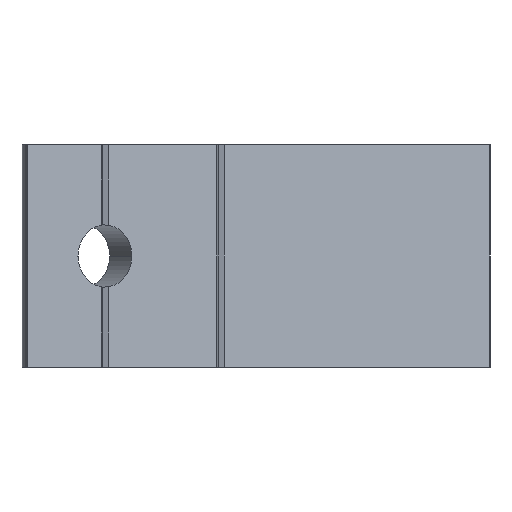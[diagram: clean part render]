
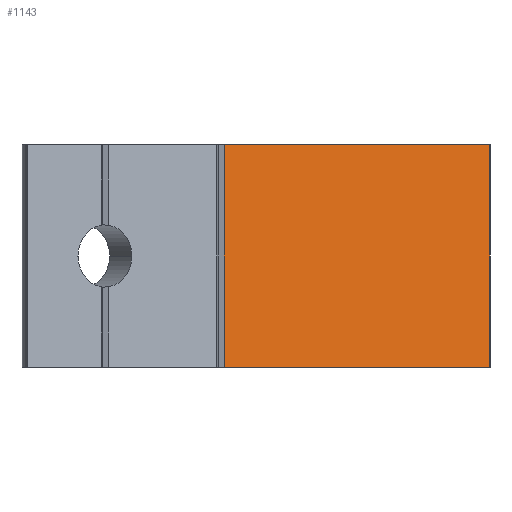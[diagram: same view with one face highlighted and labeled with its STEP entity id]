
A CAD part, left-side view. The second image highlights one B-rep face of the part: STEP entity #1143.
In plain terms, the highlighted planar face has unit normal (-0.866, -0.5, 0).
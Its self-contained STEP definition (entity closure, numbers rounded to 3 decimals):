
#13 = LINE ( 'NONE', #335, #698 ) ;
#129 = LINE ( 'NONE', #1243, #1178 ) ;
#134 = CARTESIAN_POINT ( 'NONE',  ( -17.25, 29.878, 12.5 ) ) ;
#139 = DIRECTION ( 'NONE',  ( 0., 0., -1. ) ) ;
#142 = DIRECTION ( 'NONE',  ( 0.5, -0.866, 0. ) ) ;
#163 = EDGE_CURVE ( 'NONE', #908, #1021, #913, .T. ) ;
#211 = CARTESIAN_POINT ( 'NONE',  ( -17.25, 29.878, -12.5 ) ) ;
#218 = DIRECTION ( 'NONE',  ( 0.866, 0.5, 0. ) ) ;
#263 = VERTEX_POINT ( 'NONE', #134 ) ;
#281 = CARTESIAN_POINT ( 'NONE',  ( -30., 51.962, -12.5 ) ) ;
#321 = EDGE_LOOP ( 'NONE', ( #1472, #1173, #1211, #1369 ) ) ;
#331 = VECTOR ( 'NONE', #139, 1000. ) ;
#335 = CARTESIAN_POINT ( 'NONE',  ( -17.25, 29.878, -13.603 ) ) ;
#435 = CARTESIAN_POINT ( 'NONE',  ( -30., 51.962, 12.5 ) ) ;
#474 = CARTESIAN_POINT ( 'NONE',  ( 0., 0., 12.5 ) ) ;
#580 = DIRECTION ( 'NONE',  ( 0., 0., 1. ) ) ;
#661 = AXIS2_PLACEMENT_3D ( 'NONE', #435, #218, #1290 ) ;
#698 = VECTOR ( 'NONE', #580, 1000. ) ;
#846 = EDGE_CURVE ( 'NONE', #263, #1313, #129, .T. ) ;
#908 = VERTEX_POINT ( 'NONE', #211 ) ;
#913 = LINE ( 'NONE', #281, #1592 ) ;
#931 = EDGE_CURVE ( 'NONE', #1313, #1021, #1400, .T. ) ;
#937 = DIRECTION ( 'NONE',  ( 0.5, -0.866, 0. ) ) ;
#957 = CARTESIAN_POINT ( 'NONE',  ( 0., 0., -12.5 ) ) ;
#1021 = VERTEX_POINT ( 'NONE', #957 ) ;
#1086 = EDGE_CURVE ( 'NONE', #908, #263, #13, .T. ) ;
#1143 = ADVANCED_FACE ( 'NONE', ( #1585 ), #1314, .F. ) ;
#1173 = ORIENTED_EDGE ( 'NONE', *, *, #1086, .F. ) ;
#1178 = VECTOR ( 'NONE', #937, 1000. ) ;
#1211 = ORIENTED_EDGE ( 'NONE', *, *, #163, .T. ) ;
#1243 = CARTESIAN_POINT ( 'NONE',  ( -30., 51.962, 12.5 ) ) ;
#1290 = DIRECTION ( 'NONE',  ( -0.5, 0.866, 0. ) ) ;
#1313 = VERTEX_POINT ( 'NONE', #474 ) ;
#1314 = PLANE ( 'NONE',  #661 ) ;
#1369 = ORIENTED_EDGE ( 'NONE', *, *, #931, .F. ) ;
#1400 = LINE ( 'NONE', #1501, #331 ) ;
#1472 = ORIENTED_EDGE ( 'NONE', *, *, #846, .F. ) ;
#1501 = CARTESIAN_POINT ( 'NONE',  ( 0., 0., 12.5 ) ) ;
#1585 = FACE_OUTER_BOUND ( 'NONE', #321, .T. ) ;
#1592 = VECTOR ( 'NONE', #142, 1000. ) ;
